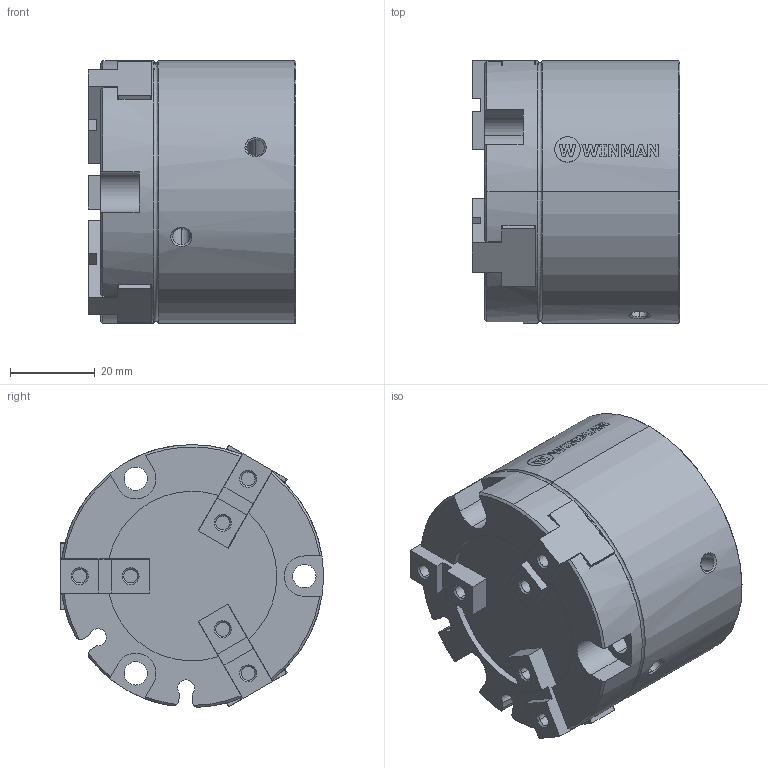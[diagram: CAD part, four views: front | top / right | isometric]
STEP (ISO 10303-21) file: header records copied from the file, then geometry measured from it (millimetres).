
FILE_DESCRIPTION (( 'STEP AP214' ), '1' );
FILE_NAME ('WFC3-040 (MDMY).STEP', '2017-01-17T12:46:18', ( 'Hidtek' ), ( '' ), 'SwSTEP 2.0', 'SolidWorks 2016', '' );
FILE_SCHEMA (( 'AUTOMOTIVE_DESIGN' ));
Length unit declared in the file: millimetre
Products named in the file (4): WFC3-Y40_body; WFC3-Y40_finger; WFC3-I40_finger; WFC3-040 (MDMY)
Assembly tree (4 placements, depth 2):
  WFC3-040 (MDMY)
    WFC3-Y40_body
    WFC3-Y40_finger  x2
    WFC3-I40_finger
Bounding box: 49 x 61.99 x 61.96 mm (x, y, z)
Volume: 123601.8 mm3; surface area: 27446.7 mm2
Topology: 4 solids, 4 shells, 308 faces, 807 edges, 531 vertices
Faces by surface type: plane 195, cylinder 75, cone 35, bspline 3
Entity records: 10247 total; most frequent: CARTESIAN_POINT 2182, ORIENTED_EDGE 1474, DIRECTION 1403, EDGE_CURVE 737, VERTEX_POINT 485, AXIS2_PLACEMENT_3D 482, VECTOR 439, LINE 439
